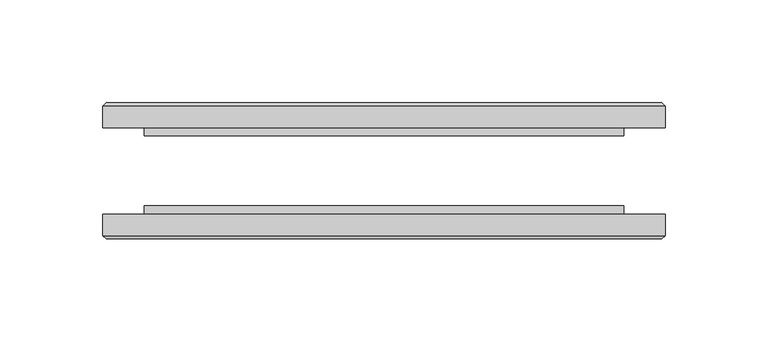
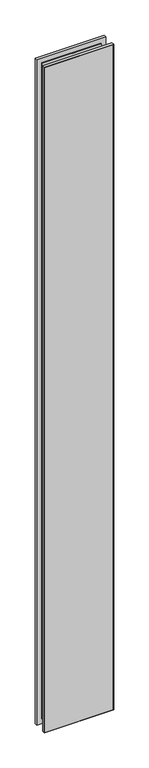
"""IFC4 building model written with IfcOpenShell, lengths in millimetres: plate geometry, 10-AMG-2-Панель двойной витраж16 ЛДСП : ЛДСП  Толщина 16."""

from ifc_helpers import new_model, si_unit, origin, place, context, project, spatial, faceted_brep, source, transform, mapped, element, save


def plate_14c2347e(model_context):
    return source(origin(), model_context, "Body", "Brep", [
        faceted_brep([(136.5, -31.4961653, 2758.0), (136.5, -21.0, 2758.0), (-136.5, -21.0, 2758.0), (-136.5, -31.4961653, 2758.0), (-136.5, -21.0, -20.0), (136.5, -21.0, -20.0), (136.5, -31.4961653, -20.0), (-136.5, -31.4961653, -20.0), (-116.5, -17.0, 2738.0), (116.5, -17.0, 2738.0), (116.5, -17.0, 0.0), (-116.5, -17.0, 0.0), (134.9961653, -33.0, 2756.4961653), (-134.9961653, -33.0, 2756.4961653), (-134.9961653, -33.0, -18.4961653), (134.9961653, -33.0, -18.4961653), (-116.5, -21.0, 2738.0), (-116.5, -21.0, 0.0), (116.5, -21.0, 0.0), (116.5, -21.0, 2738.0)], [[[0, 1, 2, 3]], [[4, 5, 6, 7]], [[8, 9, 10, 11]], [[3, 2, 4, 7]], [[12, 13, 14, 15]], [[5, 1, 0, 6]], [[2, 1, 5, 4], [16, 17, 18, 19]], [[6, 0, 12, 15]], [[0, 3, 13, 12]], [[3, 7, 14, 13]], [[7, 6, 15, 14]], [[9, 19, 18, 10]], [[16, 8, 11, 17]], [[19, 9, 8, 16]], [[18, 17, 11, 10]]]),
        faceted_brep([(136.5, 21.0, 2758.0), (136.5, 31.4961653, 2758.0), (-136.5, 31.4961653, 2758.0), (-136.5, 21.0, 2758.0), (136.5, 31.4961653, -20.0), (136.5, 21.0, -20.0), (-136.5, 21.0, -20.0), (-136.5, 31.4961653, -20.0), (-134.9961653, 33.0, 2756.4961653), (134.9961653, 33.0, 2756.4961653), (134.9961653, 33.0, -18.5039422), (-134.9961653, 33.0, -18.5039422), (116.5, 17.0, 2738.0), (-116.5, 17.0, 2738.0), (-116.5, 17.0, 0.0), (116.5, 17.0, 0.0), (116.5, 21.0, 2738.0), (116.5, 21.0, 0.0), (-116.5, 21.0, 0.0), (-116.5, 21.0, 2738.0)], [[[0, 1, 2, 3]], [[4, 5, 6, 7]], [[8, 9, 10, 11]], [[6, 3, 2, 7]], [[12, 13, 14, 15]], [[1, 0, 5, 4]], [[1, 4, 10, 9]], [[7, 2, 8, 11]], [[2, 1, 9, 8]], [[4, 7, 11, 10]], [[0, 3, 6, 5], [16, 17, 18, 19]], [[16, 12, 15, 17]], [[13, 19, 18, 14]], [[16, 19, 13, 12]], [[18, 17, 15, 14]]]),
    ])


if __name__ == "__main__":
    model = new_model("IFC4")
    model_context = context("Model", 3, world=origin())
    ifc_project = project(units=[si_unit("LENGTHUNIT", "METRE", prefix="MILLI")], contexts=[model_context])
    site = spatial("IfcSite", under=ifc_project)
    building = spatial("IfcBuilding", under=site)
    placement = place(None, origin())
    plate_shape = plate_14c2347e(model_context)
    element("IfcPlate", 1, ObjectType="10-AMG-2-Панель двойной витраж16 ЛДСП : ЛДСП  Толщина 16", at=placement, inside=building, context=model_context, shape_type="MappedRepresentation", body=[
        mapped(plate_shape, transform((0.0, 0.0, 0.0), x_axis=(1.0, 0.0, 0.0), y_axis=(0.0, 1.0, 0.0), z_axis=(0.0, 0.0, 1.0))),
    ])
    save(model, "model.ifc")
